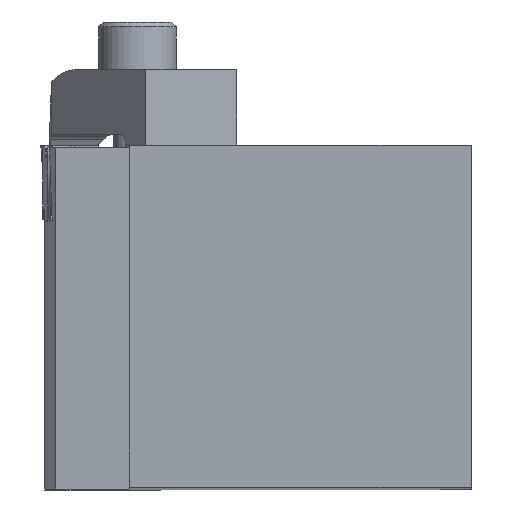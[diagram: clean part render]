
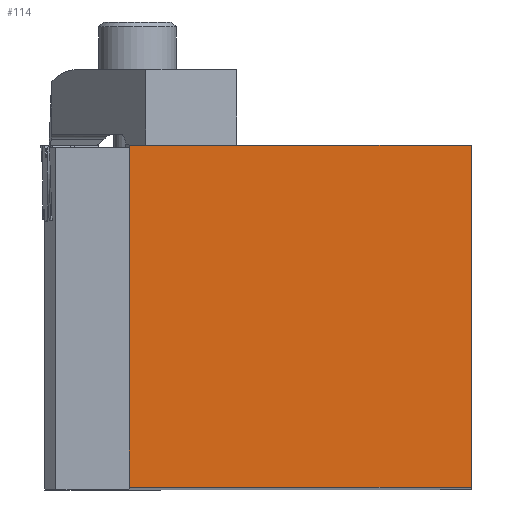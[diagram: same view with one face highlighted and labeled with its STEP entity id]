
A CAD part, top view. The second image highlights one B-rep face of the part: STEP entity #114.
In plain terms, the highlighted planar face has unit normal (0, 0, 1).
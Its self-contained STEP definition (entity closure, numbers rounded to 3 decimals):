
#114=ADVANCED_FACE('',(#255),#195,.F.);
#195=PLANE('',#1632);
#255=FACE_OUTER_BOUND('',#329,.T.);
#329=EDGE_LOOP('',(#445,#446,#447,#448));
#445=ORIENTED_EDGE('',*,*,#983,.T.);
#446=ORIENTED_EDGE('',*,*,#975,.F.);
#447=ORIENTED_EDGE('',*,*,#980,.F.);
#448=ORIENTED_EDGE('',*,*,#1000,.T.);
#833=VERTEX_POINT('',#2176);
#834=VERTEX_POINT('',#2178);
#837=VERTEX_POINT('',#2186);
#840=VERTEX_POINT('',#2194);
#975=EDGE_CURVE('',#833,#834,#1299,.T.);
#980=EDGE_CURVE('',#837,#833,#1304,.T.);
#983=EDGE_CURVE('',#840,#834,#1307,.T.);
#1000=EDGE_CURVE('',#837,#840,#1324,.T.);
#1299=LINE('',#2177,#1461);
#1304=LINE('',#2187,#1466);
#1307=LINE('',#2193,#1469);
#1324=LINE('',#2225,#1486);
#1461=VECTOR('',#1766,1.);
#1466=VECTOR('',#1773,1.);
#1469=VECTOR('',#1778,1.);
#1486=VECTOR('',#1803,1.);
#1632=AXIS2_PLACEMENT_3D('',#2226,#1804,#1805);
#1766=DIRECTION('',(0.,-1.,0.));
#1773=DIRECTION('',(1.,0.,0.));
#1778=DIRECTION('',(1.,0.,0.));
#1803=DIRECTION('',(0.,-1.,0.));
#1804=DIRECTION('',(0.,0.,-1.));
#1805=DIRECTION('',(-1.,0.,0.));
#2176=CARTESIAN_POINT('',(0.,25.21,0.));
#2177=CARTESIAN_POINT('',(0.,25.21,0.));
#2178=CARTESIAN_POINT('',(0.,0.,0.));
#2186=CARTESIAN_POINT('',(-25.21,25.21,0.));
#2187=CARTESIAN_POINT('',(-25.21,25.21,0.));
#2193=CARTESIAN_POINT('',(-25.21,0.,0.));
#2194=CARTESIAN_POINT('',(-25.21,0.,0.));
#2225=CARTESIAN_POINT('',(-25.21,25.21,0.));
#2226=CARTESIAN_POINT('',(-25.21,25.21,0.));
